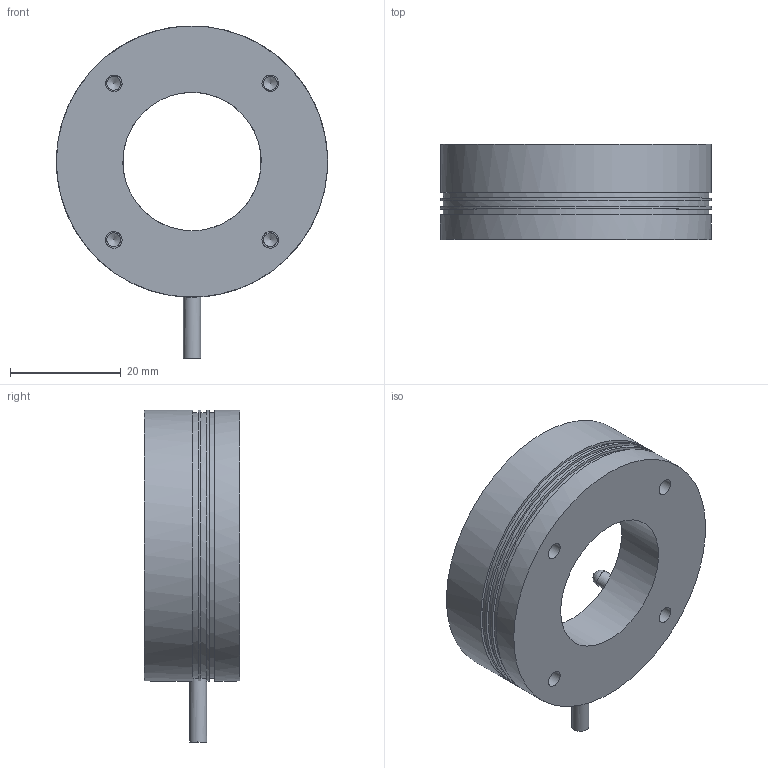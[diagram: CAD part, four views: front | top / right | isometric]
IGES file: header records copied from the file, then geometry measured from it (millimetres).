
Global section: file name: 153-00730_LR 50 xW-24-KFL5; native system: Autodesk Inventor 2018; preprocessor: unknown; author: ss; date: 20180725.091225; units: millimetre
Bounding box: 48.99 x 17.2 x 60 mm (x, y, z)
Volume: 15147.4 mm3; surface area: 8074.4 mm2
Topology: 5 solids, 5 shells, 78 faces, 200 edges, 149 vertices
Faces by surface type: bspline 78
